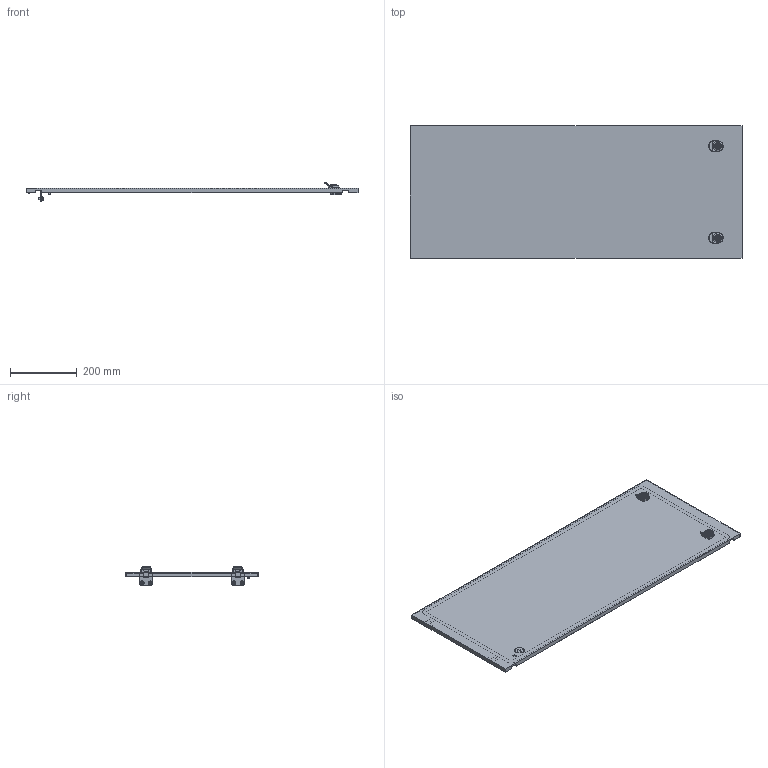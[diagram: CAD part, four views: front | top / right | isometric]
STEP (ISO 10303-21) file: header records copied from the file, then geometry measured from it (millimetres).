
FILE_DESCRIPTION (( 'STEP AP214' ), '1' );
FILE_NAME ('FO-00-ESD-040-100 Äâåðü ñåêöèîííàÿ âíåøíÿÿ 400õ1000 ìì.STEP', '2025-08-20T06:10:23', ( '' ), ( '' ), 'SwSTEP 2.0', 'SolidWorks 2023', '' );
FILE_SCHEMA (( 'AUTOMOTIVE_DESIGN' ));
Length unit declared in the file: millimetre
Products named in the file (4): Петля.STEP; FO-00-ESD-040-100 Дверь секционная внешняя 400х1000 мм.STEP; Дверь секционная внешняя 400х1000.STEP; FO-00-ESD-040-100 Дверь секционная внешняя 400х1000 мм
Assembly tree (4 placements, depth 3):
  FO-00-ESD-040-100 Дверь секционная внешняя 400х1000 мм
    FO-00-ESD-040-100 Дверь секционная внешняя 400х1000 мм.STEP
      Дверь секционная внешняя 400х1000.STEP
      Петля.STEP  x2
Bounding box: 995 x 396 x 57.25 mm (x, y, z)
Volume: 989496.3 mm3; surface area: 892470.1 mm2
Topology: 3 solids, 12 shells, 703 faces, 1803 edges, 1166 vertices
Faces by surface type: plane 343, cylinder 268, torus 34, bspline 30, cone 28
Entity records: 20618 total; most frequent: CARTESIAN_POINT 5770, ORIENTED_EDGE 3096, DIRECTION 3062, EDGE_CURVE 1548, AXIS2_PLACEMENT_3D 1050, VERTEX_POINT 1004, LINE 962, VECTOR 962
